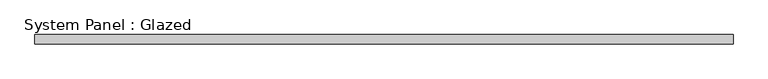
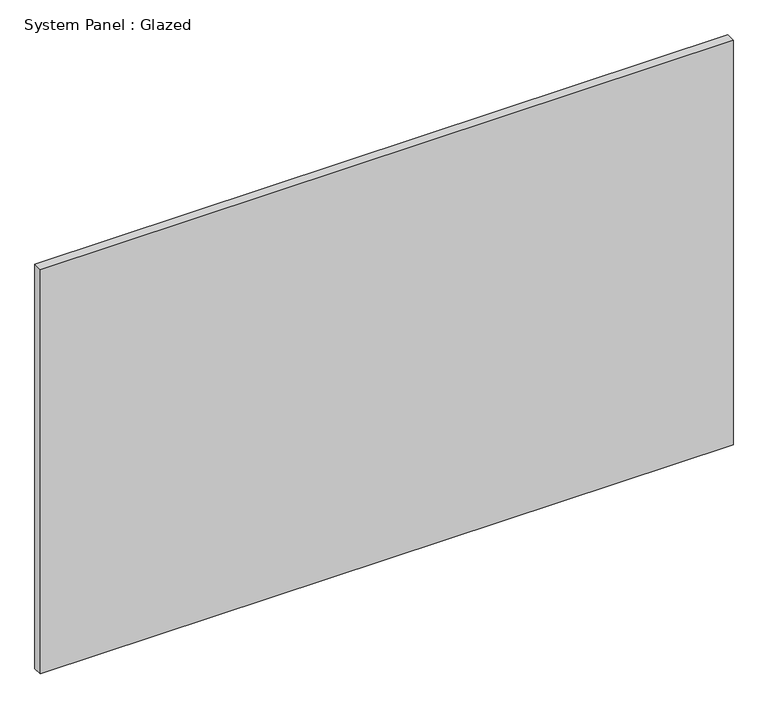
"""IFC4 building model written with IfcOpenShell, lengths in millimetres: plate geometry, System Panel : Glazed."""

from ifc_helpers import new_model, si_unit, origin, origin_with_axes, place, context, project, spatial, polyline, outline, extrude, source, transform, mapped, element, save


def system_panel_glazed_0a464ab8(model_context):
    return source(origin(), model_context, "Body", "SweptSolid", [
        extrude(outline(polyline([(936.625, -44.45), (-936.625, -44.45), (-936.625, -19.05), (936.625, -19.05), (936.625, -44.45)])), origin_with_axes(), (0.0, 0.0, 1.0), 1155.7),
    ])


if __name__ == "__main__":
    model = new_model("IFC4")
    model_context = context("Model", 3, world=origin())
    ifc_project = project(units=[si_unit("LENGTHUNIT", "METRE", prefix="MILLI")], contexts=[model_context])
    site = spatial("IfcSite", under=ifc_project)
    building = spatial("IfcBuilding", under=site)
    placement = place(None, origin())
    system_panel_glazed_shape = system_panel_glazed_0a464ab8(model_context)
    element("IfcPlate", 1, ObjectType="System Panel : Glazed", at=placement, inside=building, context=model_context, shape_type="MappedRepresentation", body=[
        mapped(system_panel_glazed_shape, transform((0.0, 0.0, 0.0), x_axis=(1.0, 0.0, 0.0), y_axis=(0.0, 1.0, 0.0), z_axis=(0.0, 0.0, 1.0))),
    ])
    save(model, "model.ifc")
